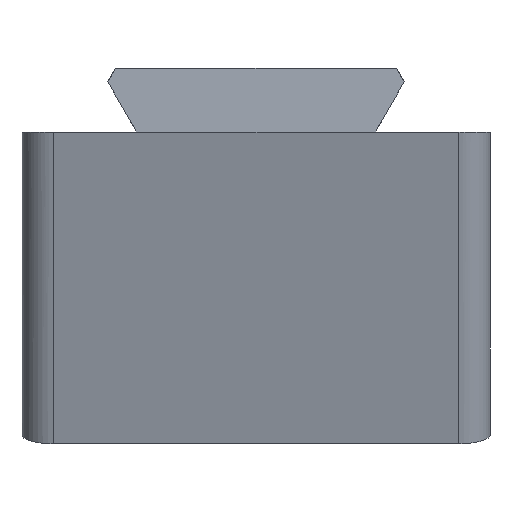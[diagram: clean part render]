
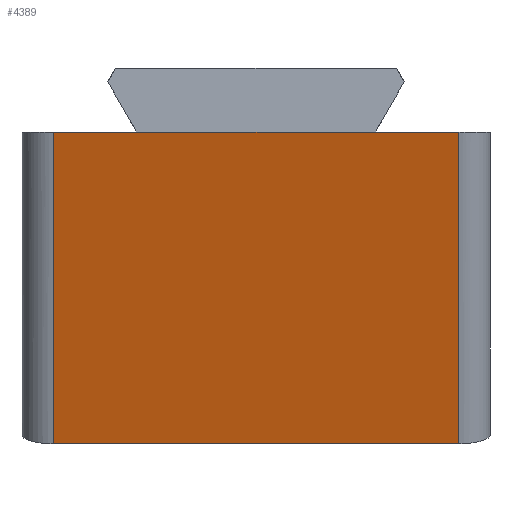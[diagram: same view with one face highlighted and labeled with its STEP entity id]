
A CAD part, left-side view. The second image highlights one B-rep face of the part: STEP entity #4389.
In plain terms, the highlighted planar face has unit normal (-0.961, 0, -0.276).
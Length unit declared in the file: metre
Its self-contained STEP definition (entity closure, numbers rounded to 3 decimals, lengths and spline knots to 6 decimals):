
#644=ORIENTED_EDGE('',*,*,#1770,.T.);
#645=ORIENTED_EDGE('',*,*,#1937,.T.);
#646=ORIENTED_EDGE('',*,*,#1700,.F.);
#647=ORIENTED_EDGE('',*,*,#1938,.T.);
#648=ORIENTED_EDGE('',*,*,#1782,.T.);
#649=ORIENTED_EDGE('',*,*,#1932,.T.);
#1700=EDGE_CURVE('',#2365,#2366,#2808,.T.);
#1770=EDGE_CURVE('',#2426,#2433,#2853,.T.);
#1782=EDGE_CURVE('',#2442,#2418,#2859,.T.);
#1932=EDGE_CURVE('',#2418,#2426,#2937,.T.);
#1937=EDGE_CURVE('',#2433,#2366,#2938,.T.);
#1938=EDGE_CURVE('',#2365,#2442,#2939,.F.);
#2365=VERTEX_POINT('',#5898);
#2366=VERTEX_POINT('',#5900);
#2418=VERTEX_POINT('',#6011);
#2426=VERTEX_POINT('',#6029);
#2433=VERTEX_POINT('',#6046);
#2442=VERTEX_POINT('',#6068);
#2808=LINE('',#5899,#3237);
#2853=LINE('',#6047,#3282);
#2859=LINE('',#6067,#3288);
#2937=LINE('',#6466,#3366);
#2938=LINE('',#6478,#3367);
#2939=LINE('',#6479,#3368);
#3237=VECTOR('',#4918,1.);
#3282=VECTOR('',#5033,1.);
#3288=VECTOR('',#5051,1.);
#3366=VECTOR('',#5185,1.);
#3367=VECTOR('',#5204,1.);
#3368=VECTOR('',#5205,1.);
#3707=EDGE_LOOP('',(#644,#645,#646,#647,#648,#649));
#3992=FACE_BOUND('',#3707,.T.);
#4250=PLANE('',#4709);
#4389=ADVANCED_FACE('',(#3992),#4250,.F.);
#4709=AXIS2_PLACEMENT_3D('',#6477,#5202,#5203);
#4918=DIRECTION('',(0.,1.,0.));
#5033=DIRECTION('',(0.,1.,0.));
#5051=DIRECTION('',(0.,1.,0.));
#5185=DIRECTION('',(0.,1.,0.));
#5202=DIRECTION('',(0.961,0.,0.276));
#5203=DIRECTION('',(0.276,0.,-0.961));
#5204=DIRECTION('',(0.276,0.,-0.961));
#5205=DIRECTION('',(0.276,0.,-0.961));
#5898=CARTESIAN_POINT('',(0.005725,-0.013,-0.019966));
#5899=CARTESIAN_POINT('',(0.005725,-0.015,-0.019966));
#5900=CARTESIAN_POINT('',(0.005725,0.013,-0.019966));
#6011=CARTESIAN_POINT('',(0.,-0.007695,0.));
#6029=CARTESIAN_POINT('',(0.,0.007695,0.));
#6046=CARTESIAN_POINT('',(0.,0.013,0.));
#6047=CARTESIAN_POINT('',(0.,-0.015,0.));
#6067=CARTESIAN_POINT('',(0.,-0.015,0.));
#6068=CARTESIAN_POINT('',(0.,-0.013,0.));
#6466=CARTESIAN_POINT('',(0.,0.,0.));
#6477=CARTESIAN_POINT('',(0.002863,-0.015,-0.009983));
#6478=CARTESIAN_POINT('',(0.002863,0.013,-0.009983));
#6479=CARTESIAN_POINT('',(0.,-0.013,0.));
